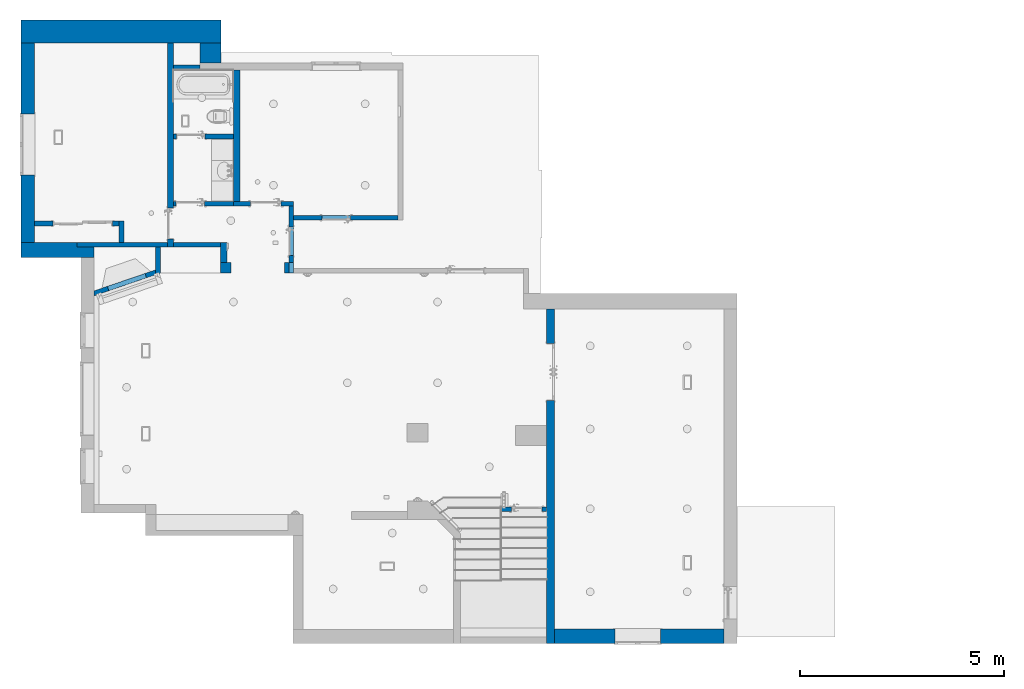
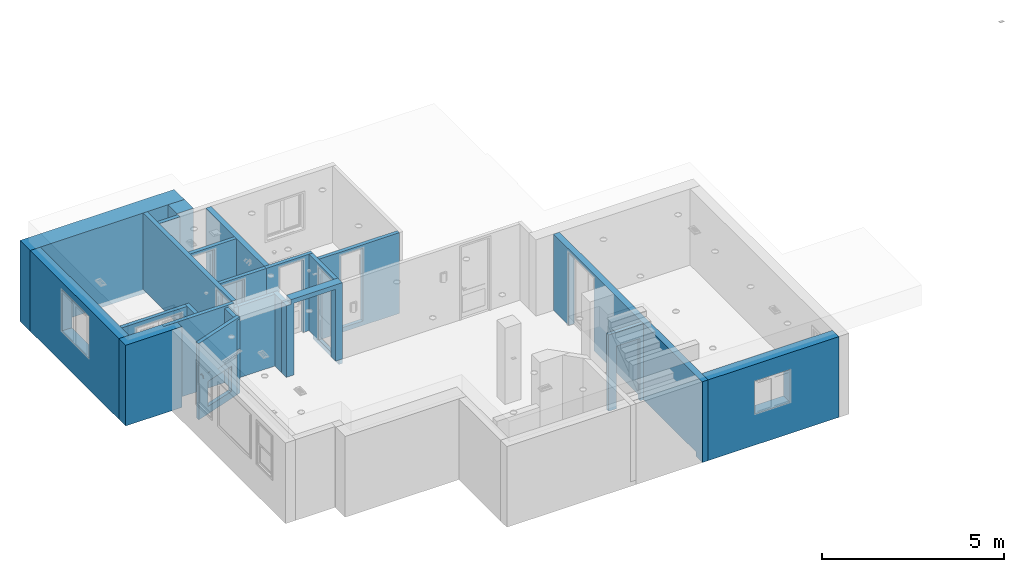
# One storey, part 2 of 24: 23 walls.
"""IFC2X3 building model written with IfcOpenShell, lengths in inches."""

from ifc_helpers import new_model, entity, si_unit, converted_unit, derived_unit, money_unit, direction, frame, origin_with_axes, place, context, subcontext, project, spatial, faceted_brep, material, type_object, element, save


model = new_model("IFC2X3")

# Units and contexts
model_context = context("Model", 3, precision=0.000393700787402, world=origin_with_axes(), true_north=direction((0.0, 1.0)))
body_context = subcontext(model_context, "Body", "Model", "MODEL_VIEW")
ifc_project = project(units=[converted_unit("LENGTHUNIT", "INCH", entity("IfcPositiveLengthMeasure", 0.0254), si_unit("LENGTHUNIT", "METRE"), dimensions=[1, 0, 0, 0, 0, 0, 0]), converted_unit("AREAUNIT", "SQUARE_FOOT", entity("IfcPositiveLengthMeasure", 0.09290304), si_unit("AREAUNIT", "SQUARE_METRE"), dimensions=[2, 0, 0, 0, 0, 0, 0]), si_unit("PLANEANGLEUNIT", "RADIAN"), si_unit("SOLIDANGLEUNIT", "STERADIAN"), money_unit("USD"), converted_unit("TIMEUNIT", "Year", entity("IfcTimeMeasure", 31556926.0), si_unit("TIMEUNIT", "SECOND"), dimensions=[0, 0, 1, 0, 0, 0, 0]), si_unit("MASSUNIT", "GRAM", prefix="KILO"), si_unit("THERMODYNAMICTEMPERATUREUNIT", "DEGREE_CELSIUS"), si_unit("LUMINOUSINTENSITYUNIT", "LUMEN"), si_unit("ENERGYUNIT", "JOULE", prefix="MEGA"), derived_unit("THERMALCONDUCTANCEUNIT", [(si_unit("POWERUNIT", "WATT"), 1), (si_unit("LENGTHUNIT", "METRE"), -1), (si_unit("THERMODYNAMICTEMPERATUREUNIT", "KELVIN"), -1)]), derived_unit("SPECIFICHEATCAPACITYUNIT", [(si_unit("ENERGYUNIT", "JOULE"), 1), (si_unit("MASSUNIT", "GRAM", prefix="KILO"), -1), (si_unit("THERMODYNAMICTEMPERATUREUNIT", "KELVIN"), -1)]), derived_unit("MASSDENSITYUNIT", [(si_unit("MASSUNIT", "GRAM", prefix="KILO"), 1), (si_unit("VOLUMEUNIT", "CUBIC_METRE"), -1)])], contexts=[model_context])

# Site, building, storey
site_placement = place(None, origin_with_axes())
site = spatial("IfcSite", under=ifc_project, at=site_placement, Name="Site", CompositionType="ELEMENT")
building_placement = place(site_placement, origin_with_axes())
building = spatial("IfcBuilding", under=site, at=building_placement, Name="Building", CompositionType="ELEMENT")
storey_placement = place(building_placement, origin_with_axes())
storey = spatial("IfcBuildingStorey", under=building, at=storey_placement, Name="First Floor", CompositionType="ELEMENT", Elevation=0.0)

# Walls
ifc_material = material(Name="Generic - Structural")
wall_type_1 = type_object("IfcWallType", Name="Generic - Structural 520", PredefinedType="NOTDEFINED")
wall_1_placement = place(storey_placement, frame((392.777876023, 566.450656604, -5.90551181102), z_axis=(0.0, 0.0, 1.0), x_axis=(0.0, 1.0, 0.0)))
element("IfcWall", 1, at=wall_1_placement, inside=storey, type_object=wall_type_1, material=ifc_material, Name="SW - 053", context=body_context, shape_type="Brep", body=[
    faceted_brep([(25.9919652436, 0.0, 0.0), (25.9919652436, -20.4724409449, 0.0), (6.5, -20.4724409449, 0.0), (6.5, 0.0, 0.0), (25.9919652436, 0.0, 106.88976378), (25.9919652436, -20.4724409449, 106.88976378), (6.5, -20.4724409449, 106.88976378), (6.5, 0.0, 106.88976378)], [[[0, 1, 2, 3]], [[1, 0, 4, 5]], [[1, 5, 6, 2]], [[7, 3, 2, 6]], [[4, 0, 3, 7]], [[5, 4, 7, 6]]]),
])
wall_type_2 = type_object("IfcWallType", Name="Generic - Structural 325", PredefinedType="NOTDEFINED")
wall_2_placement = place(storey_placement, frame((232.930392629, 592.442621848, -5.90551181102), z_axis=(0.0, 0.0, 1.0), x_axis=(0.0, -1.0, 0.0)))
element("IfcWall", 2, at=wall_2_placement, inside=storey, type_object=wall_type_2, material=ifc_material, Name="SW - 048", context=body_context, shape_type="Brep", body=[
    faceted_brep([(192.504021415, -12.7952755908, 106.88976378), (0.0, -12.7952755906, 106.88976378), (0.0, -12.7952755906, 0.0), (192.504021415, -12.7952755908, 0.0), (127.556903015, -12.7952755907, 41.7322834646), (68.5017849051, -12.7952755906, 41.7322834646), (68.5017849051, -12.7952755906, 96.8503937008), (127.556903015, -12.7952755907, 96.8503937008), (192.504021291, -2.45717706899e-10, 106.88976378), (0.0, 0.0, 106.88976378), (0.0, 0.0, 0.0), (192.504021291, -2.45717706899e-10, 0.0), (127.556903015, -1.62844366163e-10, 41.7322834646), (68.5017849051, 0.0, 41.7322834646), (68.5017849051, 0.0, 96.8503937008), (127.556903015, -1.62844366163e-10, 96.8503937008)], [[[0, 1, 2, 3], [4, 5, 6, 7]], [[8, 9, 1, 0]], [[10, 2, 1, 9]], [[3, 2, 10, 11]], [[11, 8, 0, 3]], [[12, 13, 5, 4]], [[13, 14, 6, 5]], [[14, 15, 7, 6]], [[15, 12, 4, 7]], [[11, 10, 9, 8], [12, 15, 14, 13]]]),
])
wall_type_3 = type_object("IfcWallType", Name="Generic - Structural 370", PredefinedType="NOTDEFINED")
wall_3_placement = place(storey_placement, frame((232.930392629, 399.938600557, -5.90551181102), z_axis=(0.0, 0.0, 1.0), x_axis=(1.0, 9.67114308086e-09, 0.0)))
element("IfcWall", 3, at=wall_3_placement, inside=storey, type_object=wall_type_3, material=ifc_material, Name="SW - 051", context=body_context, shape_type="Brep", body=[
    faceted_brep([(57.5032196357, -14.56692969, 0.0), (57.5033645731, -0.0314282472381, 0.0), (57.5033645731, -0.0314282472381, 5.90551181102), (57.5033195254, -4.52755905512, 5.90551181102), (57.5033195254, -4.52755905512, 106.88976378), (57.5032196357, -14.56692969, 106.88976378), (-2.45962480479e-10, 0.0, 0.0), (-5.49936299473e-10, -0.0314282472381, 0.0), (-12.7952757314, -14.5669290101, 0.0), (-12.7952755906, 1.2374493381e-07, 0.0), (-5.49936299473e-10, -0.0314282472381, 5.90551181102), (40.9678864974, -0.0314282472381, 5.90551181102), (40.9678864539, -4.5275588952, 5.90551181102), (40.9678864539, -4.5275588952, 106.88976378), (40.9678864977, 1.59916944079e-07, 106.88976378), (-12.7952755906, 1.2374493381e-07, 106.88976378), (-12.7952757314, -14.5669290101, 106.88976378), (-2.45962480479e-10, 5.56123266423e-07, 5.90551181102), (40.9678864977, 1.59916944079e-07, 5.90551181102)], [[[0, 1, 2, 3, 4, 5]], [[6, 7, 1, 0, 8, 9]], [[10, 11, 2, 1, 7]], [[3, 2, 11, 12]], [[3, 12, 13, 4]], [[5, 4, 13, 14, 15, 16]], [[16, 8, 0, 5]], [[7, 6, 17, 10]], [[9, 8, 16, 15]], [[18, 17, 6, 9, 15, 14]], [[10, 17, 18, 11]], [[12, 11, 18, 14, 13]]]),
])
wall_type_4 = type_object("IfcWallType", Name="Generic - Structural 150", PredefinedType="NOTDEFINED")
wall_4_placement = place(storey_placement, frame((418.621439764, 399.938822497, 0.0), z_axis=(0.0, 0.0, 1.0), x_axis=(0.0, -1.0, 0.0)))
element("IfcWall", 4, at=wall_4_placement, inside=storey, type_object=wall_type_4, material=ifc_material, Name="SW - 067", context=body_context, shape_type="Brep", body=[
    faceted_brep([(0.0, -5.90551181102, 95.0787401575), (0.00327157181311, -5.90551181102, 95.0787401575), (0.0, 0.0, 95.0787401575), (19.4922801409, -5.90551181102, 95.0), (0.00327157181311, -5.90551181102, 95.0), (0.0, -5.90551181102, 0.0), (19.4922801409, -5.90551181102, 0.0), (0.0, 0.0, 95.0), (0.0, 0.0, 0.0), (19.4922801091, 0.0, 95.0), (19.4922801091, 0.0, 0.0)], [[[0, 1, 2]], [[3, 4, 1, 0, 5, 6]], [[4, 7, 2, 1]], [[0, 2, 7, 8, 5]], [[3, 9, 7, 4]], [[8, 10, 6, 5]], [[10, 9, 3, 6]], [[8, 7, 9, 10]]]),
])
wall_type_5 = type_object("IfcWallType", Name="Generic - Structural 115", PredefinedType="NOTDEFINED")
wall_5_placement = place(storey_placement, frame((354.45620515, 370.240686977, 0.0), z_axis=(0.0, 0.0, 1.0), x_axis=(-0.946251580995, -0.323431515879, 0.0)))
element("IfcWall", 5, at=wall_5_placement, inside=storey, type_object=wall_type_5, material=ifc_material, Name="SW - 018", context=body_context, shape_type="Brep", body=[
    faceted_brep([(5.91242270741, 0.0, 50.9291493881), (60.0979262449, 0.0, 50.9291493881), (60.0979262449, 0.0, 50.9999970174), (60.6776106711, 0.0, 50.9999970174), (60.759708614, 0.0, 52.3498885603), (61.0106490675, 0.0, 53.6787900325), (61.3986634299, 0.0, 54.8502696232), (61.9590621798, 0.0, 55.9497610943), (62.5878738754, 0.0, 56.7841280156), (63.378462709, 0.0, 57.4671754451), (64.1992105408, 0.0, 57.865517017), (65.0527597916, 0.0, 58.0000205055), (65.0527597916, 0.0, 59.0000238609), (62.981621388, 0.0, 59.0000238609), (60.0979262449, 0.0, 54.3862534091), (60.0979262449, 0.0, 54.3453942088), (5.91242270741, 0.0, 54.4957041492), (5.91242270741, 0.0, 54.5352439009), (4.7847305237, 0.0, 56.3394931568), (4.7847305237, 0.0, 98.4251968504), (-2.45635043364e-07, 0.0, 98.4251968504), (-2.24215676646e-07, 0.0, 101.0), (67.6595547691, 0.0, 101.0), (67.6595547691, 0.0, 100.984251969), (67.6595547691, 0.0, 0.0), (4.7847305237, 0.0, 0.0), (4.7847305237, 0.0, 54.6089633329), (5.09282053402, 0.0, 53.6787900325), (5.34376137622, 0.0, 52.3498885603), (5.42585944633, 0.0, 50.9999970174), (5.91242270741, 0.0, 50.9999970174), (52.3484072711, 0.0, 42.9882254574), (13.9729963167, 0.0, 42.9882254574), (13.8933305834, 0.0, 9.42335344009), (52.3484072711, 0.0, 10.0), (60.052915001, -0.0446976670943, 50.9291493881), (6.05190130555, -0.136038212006, 50.9291493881), (60.052915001, -0.0446976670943, 50.9999970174), (60.0592682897, -0.916775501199, 50.9999970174), (60.6842564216, -0.912222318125, 50.9999970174), (60.7663500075, -0.911624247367, 52.3498885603), (61.0172771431, -0.909796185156, 53.6787900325), (61.4052709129, -0.906969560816, 54.8502696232), (61.9656399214, -0.902887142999, 55.9497610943), (62.5944182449, -0.898306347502, 56.7841280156), (63.3849651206, -0.892547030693, 57.4671754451), (64.2056693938, -0.886568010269, 57.865517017), (65.0591733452, -0.880350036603, 58.0000205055), (65.0591733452, -0.880350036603, 59.0000238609), (62.9881448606, -0.895437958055, 59.0000238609), (60.052915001, -0.0446976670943, 54.3137166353), (60.0592682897, -0.916775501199, 54.3137166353), (60.052915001, -0.0446976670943, 54.2722150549), (6.05190130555, -0.136038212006, 54.2722150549), (6.05190130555, -0.136038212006, 54.3137166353), (6.06070124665, -1.31016754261, 54.3137166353), (4.33248419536, -1.3231202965, 57.0789299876), (4.33248419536, -1.3231202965, 55.6002119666), (4.70652051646, -0.228816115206, 54.8502696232), (3.2371977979, -4.52755905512, 0.0), (3.2371977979, -4.52755905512, 98.4251968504), (0.0, -4.52755905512, 98.4251968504), (0.0, -4.52755905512, 101.0), (67.6595547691, -4.52755905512, 101.0), (67.6595547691, -4.52755905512, 100.984251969), (66.1119717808, -4.52755905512, 0.0), (66.1119717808, -4.52755905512, 100.984251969), (4.71470070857, -1.32025563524, 54.8502696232), (5.10269387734, -1.31734767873, 53.6787900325), (5.35362062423, -1.31546701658, 52.3498885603), (5.43571408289, -1.31485173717, 50.9999970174), (6.06070124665, -1.31016754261, 50.9999970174), (6.05190130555, -0.136038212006, 50.9999970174), (52.3484072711, -4.52755905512, 42.9882254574), (13.9729963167, -4.52755905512, 42.9882254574), (13.8933305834, -4.52755905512, 9.42335344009), (52.3484072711, -4.52755905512, 10.0)], [[[0, 1, 2, 3, 4, 5, 6, 7, 8, 9, 10, 11, 12, 13, 14, 15, 16, 17, 18, 19, 20, 21, 22, 23, 24, 25, 26, 27, 28, 29, 30], [31, 32, 33, 34]], [[35, 1, 0, 36]], [[35, 37, 2, 1]], [[3, 2, 37, 38, 39]], [[40, 4, 3, 39]], [[41, 5, 4, 40]], [[42, 6, 5, 41]], [[43, 7, 6, 42]], [[44, 8, 7, 43]], [[45, 9, 8, 44]], [[46, 10, 9, 45]], [[47, 11, 10, 46]], [[48, 12, 11, 47]], [[49, 13, 12, 48]], [[50, 14, 13, 49, 51]], [[50, 52, 15, 14]], [[52, 53, 16, 15]], [[17, 16, 53, 54]], [[55, 56, 18, 17, 54]], [[57, 58, 26, 25, 59, 60, 19, 18, 56]], [[20, 19, 60, 61]], [[20, 61, 62, 21]], [[62, 63, 22, 21]], [[64, 23, 22, 63]], [[65, 24, 23, 66]], [[65, 59, 25, 24]], [[27, 26, 58, 67, 68]], [[69, 28, 27, 68]], [[70, 29, 28, 69]], [[71, 72, 30, 29, 70]], [[36, 0, 30, 72]], [[32, 31, 73, 74]], [[33, 32, 74, 75]], [[34, 33, 75, 76]], [[31, 34, 76, 73]], [[36, 72, 53, 52, 37, 35]], [[38, 37, 52, 50, 51]], [[48, 47, 46, 45, 44, 43, 42, 41, 40, 39, 38, 51, 49]], [[54, 53, 72, 71, 55]], [[67, 57, 56, 55, 71, 70, 69, 68]], [[67, 58, 57]], [[66, 64, 63, 62, 61, 60, 59, 65], [73, 76, 75, 74]], [[64, 66, 23]]]),
])
wall_6_placement = place(storey_placement, frame((319.37705358, 399.938600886, 0.0), z_axis=(0.0, 0.0, 1.0), x_axis=(0.0, 1.0, 0.0)))
element("IfcWall", 6, at=wall_6_placement, inside=storey, type_object=wall_type_5, material=ifc_material, Name="W-16", context=body_context, shape_type="Brep", body=[
    faceted_brep([(20.458194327, 4.52755905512, 0.0), (20.458194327, 0.0, 0.0), (3.56040656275e-10, 0.0, 0.0), (3.57912824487e-08, 4.52755905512, 0.0), (20.458194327, 4.52755905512, 101.0), (20.458194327, 0.0, 101.0), (3.56040656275e-10, 0.0, 101.0), (3.57912824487e-08, 4.52755905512, 101.0)], [[[0, 1, 2, 3]], [[1, 0, 4, 5]], [[1, 5, 6, 2]], [[7, 3, 2, 6]], [[4, 0, 3, 7]], [[5, 4, 7, 6]]]),
])
wall_7_placement = place(storey_placement, frame((319.37705358, 420.396795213, 0.0), z_axis=(0.0, 0.0, 1.0), x_axis=(-1.0, 0.0, 0.0)))
element("IfcWall", 7, at=wall_7_placement, inside=storey, type_object=wall_type_5, material=ifc_material, Name="W-17", context=body_context, shape_type="Brep", body=[
    faceted_brep([(68.3200873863, 0.0, 94.4881889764), (68.3200873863, 0.0, 0.0), (86.4466609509, 0.0, 0.0), (86.4466609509, 0.0, 100.984251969), (86.4466609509, 0.0, 101.0), (4.52755905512, 0.0, 101.0), (4.52755905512, 0.0, 0.0), (11.2334732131, 0.0, 0.0), (11.2334732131, 0.0, 94.4881889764), (68.3200873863, 4.52755905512, 94.4881889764), (68.3200873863, 4.52755905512, 0.0), (86.4466609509, 4.52755905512, 0.0), (86.4466609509, 4.52755905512, 100.984251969), (86.4466609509, 4.52755905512, 101.0), (4.52755905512, 4.52755905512, 101.0), (4.52755905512, 4.52755905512, 0.0), (11.2334732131, 4.52755905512, 0.0), (11.2334732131, 4.52755905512, 94.4881889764)], [[[0, 1, 2, 3, 4, 5, 6, 7, 8]], [[1, 0, 9, 10]], [[1, 10, 11, 2]], [[12, 3, 2, 11]], [[3, 12, 13, 4]], [[5, 4, 13, 14]], [[6, 5, 14, 15]], [[16, 7, 6, 15]], [[8, 7, 16, 17]], [[0, 8, 17, 9]], [[17, 16, 15, 14, 13, 12, 11, 10, 9]]]),
])
wall_8_placement = place(storey_placement, frame((354.456205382, 399.938600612, 0.0), z_axis=(0.0, 0.0, 1.0), x_axis=(-7.82656043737e-09, -1.0, 0.0)))
element("IfcWall", 8, at=wall_8_placement, inside=storey, type_object=wall_type_5, material=ifc_material, Name="SW - 017", context=body_context, shape_type="Brep", body=[
    faceted_brep([(31.2454463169, -4.52755881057, 98.4251968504), (31.2454463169, -4.52755881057, 56.3394931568), (30.7076167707, -2.95405091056, 59.0000238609), (30.0377442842, -0.994229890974, 59.0000238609), (30.0377442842, -0.994229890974, 58.0000205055), (30.3138094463, -1.80190346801, 57.865517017), (30.5792655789, -2.57853860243, 57.4671754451), (30.8349673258, -3.32663569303, 56.7841280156), (31.0383451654, -3.92165067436, 55.9497610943), (31.2195960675, -4.45192969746, 54.8502696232), (31.2454463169, -4.52755881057, 54.6089633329), (31.2454463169, -4.52755881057, 0.0), (29.6979135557, 2.32432515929e-07, 0.0), (29.6979135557, 2.32432515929e-07, 98.4251968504), (29.847170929, -4.52755882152, 55.6002119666), (29.847170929, -4.52755882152, 57.0789299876), (4.52755905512, -4.52755901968, 98.4251968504), (4.52755905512, -4.52755901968, 0.0), (31.0036331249, -4.52755881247, 54.8502696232), (29.4503261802, -3.39434762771, 59.0000238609), (28.765803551, -1.43965701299, 59.0000238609), (28.765803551, -1.43965701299, 58.0000205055), (29.0479062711, -2.24521626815, 57.865517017), (29.3191679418, -3.01981833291, 57.4671754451), (29.5804618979, -3.76595706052, 56.7841280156), (29.7882876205, -4.35941441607, 55.9497610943), (4.52755905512, 3.54352417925e-08, 0.0), (4.52755905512, 3.54352417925e-08, 98.4251968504)], [[[0, 1, 2, 3, 4, 5, 6, 7, 8, 9, 10, 11, 12, 13]], [[14, 15, 1, 0, 16, 17, 11, 10, 18]], [[19, 2, 1, 15]], [[20, 3, 2, 19]], [[21, 4, 3, 20]], [[22, 5, 4, 21]], [[23, 6, 5, 22]], [[24, 7, 6, 23]], [[25, 8, 7, 24]], [[18, 9, 8, 25, 14]], [[18, 10, 9]], [[17, 26, 12, 11]], [[26, 27, 13, 12]], [[27, 16, 0, 13]], [[19, 15, 14, 25, 24, 23, 22, 21, 20]], [[17, 16, 27, 26]]]),
])
wall_9_placement = place(storey_placement, frame((361.489643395, 399.938822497, 0.0), z_axis=(0.0, 0.0, 1.0), x_axis=(1.0, 0.0, 0.0)))
element("IfcWall", 9, at=wall_9_placement, inside=storey, type_object=wall_type_5, material=ifc_material, Name="SW - 051", context=body_context, shape_type="Brep", body=[
    faceted_brep([(5.50000000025, 0.0, 95.0787401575), (5.50000000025, -0.0286033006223, 95.0787401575), (51.226284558, -0.00327157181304, 95.0787401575), (51.226284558, 0.0, 95.0787401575), (5.50000000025, -4.52755905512, 95.0), (5.50000000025, -0.0286033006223, 95.0), (5.50000000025, 0.0, 0.0), (5.50000000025, -4.52755905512, 0.0), (51.226284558, -0.00327157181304, 95.0), (51.226284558, -4.52755905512, 95.0), (51.226284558, -4.52755905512, 0.0), (51.226284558, 0.0, 0.0)], [[[0, 1, 2, 3]], [[4, 5, 1, 0, 6, 7]], [[5, 8, 2, 1]], [[2, 8, 9, 10, 11, 3]], [[0, 3, 11, 6]], [[4, 9, 8, 5]], [[6, 11, 10, 7]], [[10, 9, 4, 7]]]),
])
wall_10_placement = place(storey_placement, frame((290.433757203, 399.938601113, 0.0), z_axis=(0.0, 0.0, 1.0), x_axis=(1.0, -7.82656154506e-09, 0.0)))
element("IfcWall", 10, at=wall_10_placement, inside=storey, type_object=wall_type_5, material=ifc_material, Name="SW - 051", context=body_context, shape_type="Brep", body=[
    faceted_brep([(-3.54352068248e-08, 0.0, 101.0), (0.0, -4.52755905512, 101.0), (71.0558862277, -4.52755849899, 101.0), (71.0558861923, 5.56123266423e-07, 101.0), (-3.54352068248e-08, 0.0, 100.984251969), (0.0, -4.52755905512, 100.984251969), (-16.5354780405, -4.52755918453, 0.0), (71.0558862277, -4.52733711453, 0.0), (71.0558862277, -4.52754552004, 95.0787401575), (-16.5354780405, -4.52755918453, 100.984251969), (71.0558861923, 5.56123266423e-07, 0.0), (-16.535478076, -1.29415918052e-07, 0.0), (-16.535478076, -1.29415918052e-07, 100.984251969)], [[[0, 1, 2, 3]], [[0, 4, 5, 1]], [[6, 7, 8, 2, 1, 5, 9]], [[7, 10, 3, 2, 8]], [[4, 0, 3, 10, 11, 12]], [[12, 9, 5, 4]], [[6, 11, 10, 7]], [[12, 11, 6, 9]]]),
])
wall_11_placement = place(storey_placement, frame((424.990115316, 439.494151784, 0.0), z_axis=(0.0, 0.0, 1.0), x_axis=(1.0, 5.97077375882e-09, 0.0)))
element("IfcWall", 11, at=wall_11_placement, inside=storey, type_object=wall_type_5, material=ifc_material, Name="SW - 057", context=body_context, shape_type="Brep", body=[
    faceted_brep([(16.6100058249, -9.91746317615e-08, 96.4566929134), (16.6100058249, -9.91746317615e-08, 0.0), (0.0, 0.0, 0.0), (0.0, 0.0, 101.0), (57.9488753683, -3.45999624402e-07, 101.0), (57.9488753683, -3.45999624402e-07, 0.0), (46.13756488, -2.75476999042e-07, 0.0), (46.13756488, -2.75476999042e-07, 96.4566929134), (16.6100057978, -4.52755915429, 96.4566929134), (16.6100057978, -4.52755915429, 0.0), (-2.70330040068e-08, -4.52755905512, 0.0), (-2.70330040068e-08, -4.52755905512, 101.0), (57.9488753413, -4.52755940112, 101.0), (57.9488753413, -4.52755940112, 0.0), (46.1375648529, -4.5275593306, 0.0), (46.1375648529, -4.5275593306, 96.4566929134)], [[[0, 1, 2, 3, 4, 5, 6, 7]], [[1, 0, 8, 9]], [[1, 9, 10, 2]], [[2, 10, 11, 3]], [[12, 4, 3, 11]], [[5, 4, 12, 13]], [[14, 6, 5, 13]], [[7, 6, 14, 15]], [[0, 7, 15, 8]], [[15, 14, 13, 12, 11, 10, 9, 8]]]),
])
wall_12_placement = place(storey_placement, frame((361.489643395, 499.91873164, 0.0), z_axis=(0.0, 0.0, 1.0), x_axis=(1.0, 0.0, 0.0)))
element("IfcWall", 12, at=wall_12_placement, inside=storey, type_object=wall_type_5, material=ifc_material, Name="SW - 066", context=body_context, shape_type="Brep", body=[
    faceted_brep([(8.65120629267, 4.52755905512, 96.4566929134), (8.65120629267, 4.52755905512, 0.0), (5.50000000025, 4.52755905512, 0.0), (5.50000000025, 4.52755905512, 101.0), (63.5762041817, 4.52755905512, 101.0), (63.5762041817, 4.52755905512, 0.0), (36.2102614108, 4.52755905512, 0.0), (36.2102614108, 4.52755905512, 96.4566929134), (8.65120629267, 0.0, 96.4566929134), (8.65120629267, 0.0, 0.0), (5.50000000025, 0.0, 0.0), (5.50000000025, 0.0, 101.0), (63.5762041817, 0.0, 101.0), (63.5762041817, 0.0, 0.0), (36.2102614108, 0.0, 0.0), (36.2102614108, 0.0, 96.4566929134)], [[[0, 1, 2, 3, 4, 5, 6, 7]], [[1, 0, 8, 9]], [[1, 9, 10, 2]], [[11, 3, 2, 10]], [[4, 3, 11, 12]], [[12, 13, 5, 4]], [[14, 6, 5, 13]], [[7, 6, 14, 15]], [[0, 7, 15, 8]], [[15, 14, 13, 12, 11, 10, 9, 8]]]),
])
wall_13_placement = place(storey_placement, frame((361.489643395, 566.450626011, 0.0), z_axis=(0.0, 0.0, 1.0), x_axis=(1.0, 0.0, 0.0)))
element("IfcWall", 13, at=wall_13_placement, inside=storey, type_object=wall_type_5, material=ifc_material, Name="SW - 146", context=body_context, shape_type="Brep", body=[
    faceted_brep([(5.50000000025, 0.0, 101.0), (31.25, 0.0, 101.0), (31.25, 4.52755905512, 101.0), (5.50000000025, 4.52755905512, 101.0), (5.50000000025, 0.0, 0.0), (31.25, 0.0, 0.0), (31.25, 4.52755905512, 0.0), (5.50000000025, 4.52755905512, 0.0)], [[[0, 1, 2, 3]], [[4, 5, 1, 0]], [[2, 1, 5, 6]], [[3, 2, 6, 7]], [[4, 0, 3, 7]], [[7, 6, 5, 4]]]),
])
wall_14_placement = place(storey_placement, frame((361.489643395, 439.494151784, 0.0), z_axis=(0.0, 0.0, 1.0), x_axis=(1.0, 0.0, 0.0)))
element("IfcWall", 14, at=wall_14_placement, inside=storey, type_object=wall_type_5, material=ifc_material, Name="SW - 057", context=body_context, shape_type="Brep", body=[
    faceted_brep([(8.25272035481, 0.0, 96.4566929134), (8.25272035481, 0.0, 0.0), (5.50000000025, 0.0, 0.0), (5.50000000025, 0.0, 101.0), (63.5004719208, 0.0, 101.0), (63.5004719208, 0.0, 0.0), (35.8117754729, 0.0, 0.0), (35.8117754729, 0.0, 96.4566929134), (8.25272035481, -4.52755905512, 96.4566929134), (8.25272035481, -4.52755905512, 0.0), (5.50000000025, -4.52755905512, 0.0), (5.50000000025, -4.52755905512, 101.0), (63.5004719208, -4.52755905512, 101.0), (63.5004719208, -4.52755905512, 0.0), (35.8117754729, -4.52755905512, 0.0), (35.8117754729, -4.52755905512, 96.4566929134)], [[[0, 1, 2, 3, 4, 5, 6, 7]], [[1, 0, 8, 9]], [[1, 9, 10, 2]], [[2, 10, 11, 3]], [[12, 4, 3, 11]], [[5, 4, 12, 13]], [[14, 6, 5, 13]], [[7, 6, 14, 15]], [[0, 7, 15, 8]], [[15, 14, 13, 12, 11, 10, 9, 8]]]),
])
wall_15_placement = place(storey_placement, frame((478.411431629, 439.494183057, -5.90551181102), z_axis=(0.0, 0.0, 1.0), x_axis=(-6.83082146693e-06, -0.999999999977, 0.0)))
element("IfcWall", 15, at=wall_15_placement, inside=storey, type_object=wall_type_5, material=ifc_material, Name="SW - 058", context=body_context, shape_type="Brep", body=[
    faceted_brep([(52.3701979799, 0.0, 5.90551181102), (52.3701979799, 0.0546532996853, 5.90551181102), (59.0476398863, 0.0640636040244, 5.90551181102), (59.047640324, 0.0, 5.90551181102), (52.3701979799, 4.52755905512, 102.362204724), (52.3701979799, 4.52755905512, 5.90551181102), (52.3701979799, 0.0, 102.362204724), (24.8111428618, 0.0158152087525, 5.90551181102), (13.5888556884, 0.0, 5.90551181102), (13.5888556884, 0.0, 0.0), (69.0870102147, 0.0782117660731, 0.0), (69.0870102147, 0.0782117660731, 5.90551181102), (59.0476093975, 4.52749047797, 5.90551181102), (59.0476093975, 4.52749047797, 106.88976378), (59.047640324, 0.0, 106.88976378), (4.52759032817, 0.0, 106.88976378), (4.52759032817, 0.0, 5.90551181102), (24.8111428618, 0.0, 5.90551181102), (24.8111428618, 0.0, 102.362204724), (69.086979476, 4.52755905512, 5.90551181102), (69.086979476, 4.52755905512, 0.0), (13.5887455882, 4.52755905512, 0.0), (13.5887455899, 4.52749047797, 5.90551181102), (4.52755940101, 4.52758998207, 5.90551181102), (4.52755940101, 4.52758998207, 106.88976378), (24.8111428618, 4.52755905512, 102.362204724), (24.8111428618, 4.52755905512, 5.90551181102)], [[[0, 1, 2, 3]], [[4, 5, 1, 0, 6]], [[1, 7, 8, 9, 10, 11, 2]], [[2, 12, 13, 14, 3]], [[6, 0, 3, 14, 15, 16, 8, 17, 18]], [[13, 12, 19, 20, 21, 22, 23, 24], [5, 4, 25, 26]], [[5, 26, 7, 1]], [[25, 4, 6, 18]], [[7, 17, 8]], [[22, 21, 9, 8]], [[9, 21, 20, 10]], [[11, 10, 20, 19]], [[2, 11, 19, 12]], [[15, 14, 13, 24]], [[23, 16, 15, 24]], [[16, 23, 22, 8]], [[26, 25, 18, 17, 7]]]),
])
wall_16_placement = place(storey_placement, frame((478.411338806, 425.905327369, -5.90551181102), z_axis=(0.0, 0.0, 1.0), x_axis=(0.999999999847, 1.74869580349e-05, 0.0)))
element("IfcWall", 16, at=wall_16_placement, inside=storey, type_object=wall_type_5, material=ifc_material, Name="SW - 059", context=body_context, shape_type="Brep", body=[
    faceted_brep([(105.503735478, -4.52755905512, 0.0), (105.503735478, -4.52755905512, 106.88976378), (4.52744895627, -4.52755905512, 106.88976378), (4.52744895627, -4.52755905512, 0.0), (31.8706097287, -4.52755905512, 5.90551181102), (31.8706097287, -4.52755905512, 102.362204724), (59.4217525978, -4.52755905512, 102.362204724), (59.4217525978, -4.52755905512, 5.90551181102), (105.503814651, 0.0, 0.0), (105.503814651, 0.0, 106.88976378), (4.52755905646, 0.0, 106.88976378), (4.52755905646, 0.0, 0.0), (31.8706097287, 0.0, 5.90551181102), (31.8706097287, 0.0, 102.362204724), (59.4217525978, 0.0, 102.362204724), (59.4217525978, 0.0, 5.90551181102)], [[[0, 1, 2, 3], [4, 5, 6, 7]], [[0, 8, 9, 1]], [[1, 9, 10, 2]], [[10, 11, 3, 2]], [[8, 0, 3, 11]], [[12, 13, 5, 4]], [[13, 14, 6, 5]], [[14, 15, 7, 6]], [[15, 12, 4, 7]], [[9, 8, 11, 10], [12, 15, 14, 13]]]),
])
wall_type_6 = type_object("IfcWallType", Name="Generic - Structural 140", PredefinedType="NOTDEFINED")
wall_17_placement = place(storey_placement, frame((361.489643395, 399.938600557, 0.0), z_axis=(0.0, 0.0, 1.0), x_axis=(0.0, 1.0, 0.0)))
element("IfcWall", 17, at=wall_17_placement, inside=storey, type_object=wall_type_6, material=ifc_material, Name="SW - 052", context=body_context, shape_type="Brep", body=[
    faceted_brep([(3.52429226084, -5.5, 0.0), (3.52429226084, -5.5, 96.4566929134), (33.051851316, -5.5, 96.4566929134), (33.051851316, -5.5, 0.0), (192.504021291, -5.5, 0.0), (192.504021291, -5.5, 100.984251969), (192.504021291, -5.5, 101.0), (-0.0283813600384, -5.5, 101.0), (-0.0283813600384, -5.5, 95.0), (-4.52754534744, -5.5, 95.0), (-4.52733711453, -5.5, 0.0), (3.52429226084, 0.0, 0.0), (3.52429226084, -3.12755665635e-07, 96.4566929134), (33.051851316, -3.12755665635e-07, 96.4566929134), (33.051851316, 0.0, 0.0), (192.504021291, 0.0, 0.0), (192.504021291, 0.0, 100.984251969), (192.504021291, 0.0, 101.0), (-0.0314282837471, -3.12755665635e-07, 101.0), (-0.0314282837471, -3.12755665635e-07, 95.0), (-4.52754534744, -3.12755665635e-07, 95.0), (-4.52733711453, 0.0, 0.0)], [[[0, 1, 2, 3, 4, 5, 6, 7, 8, 9, 10]], [[1, 0, 11, 12]], [[2, 1, 12, 13]], [[3, 2, 13, 14]], [[3, 14, 15, 4]], [[4, 15, 16, 17, 6, 5]], [[18, 7, 6, 17]], [[8, 7, 18, 19]], [[9, 8, 19, 20]], [[9, 20, 21, 10]], [[11, 0, 10, 21]], [[12, 11, 21, 20, 19, 18, 17, 16, 15, 14, 13]]]),
])
wall_type_7 = type_object("IfcWallType", Name="Generic - Structural 560", PredefinedType="NOTDEFINED")
wall_18_placement = place(storey_placement, frame((392.777876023, 592.442621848, -5.90551181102), z_axis=(0.0, 0.0, 1.0), x_axis=(-1.0, 0.0, 0.0)))
element("IfcWall", 18, at=wall_18_placement, inside=storey, type_object=wall_type_7, material=ifc_material, Name="SW - 053", context=body_context, shape_type="Brep", body=[
    faceted_brep([(172.642758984, 0.0, 0.0), (172.642758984, -22.0472440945, 0.0), (-20.4724409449, -22.0472440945, 0.0), (-20.4724409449, 0.0, 0.0), (172.642758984, 0.0, 106.88976378), (172.642758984, -22.0472440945, 106.88976378), (-20.4724409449, -22.0472440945, 106.88976378), (-20.4724409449, 0.0, 106.88976378)], [[[0, 1, 2, 3]], [[1, 0, 4, 5]], [[1, 5, 6, 2]], [[7, 3, 2, 6]], [[4, 0, 3, 7]], [[5, 4, 7, 6]]]),
])
wall_type_8 = type_object("IfcWallType", Name="Generic Wall 6.5\" 165", PredefinedType="NOTDEFINED")
wall_19_placement = place(storey_placement, frame((431.565847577, 566.450656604, 0.0), z_axis=(0.0, 0.0, 1.0), x_axis=(0.0, -1.0, 0.0)))
element("IfcWall", 19, at=wall_19_placement, inside=storey, type_object=wall_type_8, material=ifc_material, Name="SW - 056", context=body_context, shape_type="Brep", body=[
    faceted_brep([(126.956504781, 0.0, 0.0), (0.0, 0.0, 0.0), (0.0, 0.0, 100.984251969), (0.0, 0.0, 101.0), (126.956504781, 0.0, 101.0), (126.95650482, -6.5, 0.0), (0.0, -6.5, 0.0), (0.0, -6.5, 100.984251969), (0.0, -6.5, 101.0), (126.95650482, -6.5, 101.0)], [[[0, 1, 2, 3, 4]], [[5, 6, 1, 0]], [[3, 2, 1, 6, 7, 8]], [[9, 4, 3, 8]], [[5, 0, 4, 9]], [[8, 7, 6, 5, 9]]]),
])
wall_type_9 = type_object("IfcWallType", Name="Generic Wall 4.5\" 114", PredefinedType="NOTDEFINED")
wall_20_placement = place(storey_placement, frame((727.056174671, 140.407626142, 0.0), z_axis=(0.0, 0.0, 1.0), x_axis=(-0.999999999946, -1.04147395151e-05, 0.0)))
element("IfcWall", 20, at=wall_20_placement, inside=storey, type_object=wall_type_9, material=ifc_material, Name="SW - 039", context=body_context, shape_type="Brep", body=[
    faceted_brep([(33.8567320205, -4.5, 82.6771653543), (33.8567320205, -4.5, 0.0), (43.5759831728, -4.5, 0.0), (43.5759831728, -4.5, 101.0), (0.0, -4.5, 101.0), (-4.68663278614e-05, -4.49999999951, 100.984251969), (-4.68663278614e-05, -4.5, 0.0), (4.32917296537, -4.5, 0.0), (4.32917296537, -4.5, 82.6771653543), (33.8567320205, 0.0, 82.6771653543), (33.8567320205, 0.0, 0.0), (43.5759831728, 0.0, 0.0), (43.5759831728, 0.0, 101.0), (0.0, 0.0, 101.0), (0.0, 0.0, 100.984251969), (0.0, 0.0, 0.0), (4.32917296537, 0.0, 0.0), (4.32917296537, 0.0, 82.6771653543)], [[[0, 1, 2, 3, 4, 5, 6, 7, 8]], [[1, 0, 9, 10]], [[1, 10, 11, 2]], [[11, 12, 3, 2]], [[4, 3, 12, 13]], [[6, 5, 4, 13, 14, 15]], [[16, 7, 6, 15]], [[8, 7, 16, 17]], [[0, 8, 17, 9]], [[17, 16, 15, 14, 13, 12, 11, 10, 9]]]),
])
wall_type_10 = type_object("IfcWallType", Name="Generic - Structural 190", PredefinedType="NOTDEFINED")
wall_21_placement = place(storey_placement, frame((727.056174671, 19.407173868, -5.90551181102), z_axis=(0.0, 0.0, 1.0), x_axis=(0.0, 1.0, 0.0)))
element("IfcWall", 21, at=wall_21_placement, inside=storey, type_object=wall_type_10, material=ifc_material, Name="SW - 044", context=body_context, shape_type="Brep", body=[
    faceted_brep([(227.962863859, -7.48031496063, 5.90551181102), (227.962863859, -7.48031496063, 102.362204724), (283.080974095, -7.48031496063, 102.362204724), (283.080974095, -7.48031496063, 5.90551181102), (316.147262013, -7.48031496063, 5.90551181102), (316.147262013, -7.48031496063, 106.88976378), (-6.49982466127, -7.48031496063, 106.88976378), (-6.49982466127, -7.48031496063, 0.0), (7.49895664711, -7.48031496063, 0.0), (7.49895664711, -7.48031496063, 5.90551181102), (227.962863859, 0.0, 5.90551181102), (227.962863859, 0.0, 102.362204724), (283.080974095, 0.0, 102.362204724), (283.080974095, 0.0, 5.90551181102), (316.147262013, 0.0, 5.90551181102), (316.147262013, 0.0, 106.88976378), (-6.49980427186, 0.0, 106.88976378), (-6.49980427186, 0.0, 0.0), (7.49998919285, 0.0, 0.0), (7.49998919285, 0.0, 5.90551181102)], [[[0, 1, 2, 3, 4, 5, 6, 7, 8, 9]], [[1, 0, 10, 11]], [[2, 1, 11, 12]], [[3, 2, 12, 13]], [[3, 13, 14, 4]], [[4, 14, 15, 5]], [[5, 15, 16, 6]], [[16, 17, 7, 6]], [[18, 8, 7, 17]], [[9, 8, 18, 19]], [[10, 0, 9, 19]], [[11, 10, 19, 18, 17, 16, 15, 14, 13, 12]]]),
])
wall_type_11 = type_object("IfcWallType", Name="Generic - Structural 255", PredefinedType="NOTDEFINED")
wall_22_placement = place(storey_placement, frame((482.938518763, 370.407172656, 0.0), z_axis=(0.0, 0.0, 1.0), x_axis=(-1.0, -5.37959170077e-09, 0.0)))
element("IfcWall", 22, at=wall_22_placement, inside=storey, type_object=wall_type_11, material=ifc_material, Name="SW - 016", context=body_context, shape_type="Brep", body=[
    faceted_brep([(60.4610482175, -10.039370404, 95.0787401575), (60.4610482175, -10.039370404, 0.0), (70.2225907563, -10.0393704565, 0.0), (70.2225907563, -10.0393704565, 95.0), (64.3170789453, -10.0393704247, 95.0), (64.3170788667, -10.0393704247, 95.0787401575), (64.3170789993, -10.0393704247, 101.0), (-5.40077519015e-08, -10.0393700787, 101.0), (-5.40077519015e-08, -10.0393700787, 0.0), (8.4753605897, -10.0393701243, 0.0), (8.4753605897, -10.0393701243, 95.0787401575), (60.4610482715, -3.2525576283e-07, 95.0787401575), (60.4610482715, -3.2525576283e-07, 0.0), (70.2225908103, -3.77768857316e-07, 0.0), (70.2225908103, -4.8422788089e-08, 95.0), (64.3170789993, 0.0, 95.0), (64.3170790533, -3.45999624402e-07, 101.0), (0.0, 0.0, 101.0), (0.0, 0.0, 0.0), (8.4753606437, -4.55939747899e-08, 0.0), (8.4753606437, -4.55939747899e-08, 95.0787401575)], [[[0, 1, 2, 3, 4, 5, 6, 7, 8, 9, 10]], [[1, 0, 11, 12]], [[1, 12, 13, 2]], [[14, 3, 2, 13]], [[4, 3, 14, 15]], [[4, 15, 16, 6, 5]], [[7, 6, 16, 17]], [[7, 17, 18, 8]], [[19, 9, 8, 18]], [[10, 9, 19, 20]], [[0, 10, 20, 11]], [[20, 19, 18, 17, 16, 15, 14, 13, 12, 11]]]),
])
wall_type_12 = type_object("IfcWallType", Name="Generic - Structural 355", PredefinedType="NOTDEFINED")
wall_23_placement = place(storey_placement, frame((727.056174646, 26.8837352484, -5.90551181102), z_axis=(0.0, 0.0, 1.0), x_axis=(0.999999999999, -1.08138594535e-06, 0.0)))
element("IfcWall", 23, at=wall_23_placement, inside=storey, type_object=wall_type_12, material=ifc_material, Name="SW - 063", context=body_context, shape_type="Brep", body=[
    faceted_brep([(171.063788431, -13.9763779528, 106.88976378), (7.48033009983, -13.9763779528, 106.88976378), (7.48033009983, -13.9763779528, 0.0), (171.063788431, -13.9763779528, 0.0), (65.9477509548, -13.9763779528, 41.5354330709), (65.9477509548, -13.9763779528, 84.6456692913), (110.042239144, -13.9763779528, 84.6456692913), (110.042239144, -13.9763779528, 41.5354330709), (171.063773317, 0.0, 106.88976378), (7.48031498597, 0.0, 106.88976378), (7.48031498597, 0.0, 0.0), (171.063773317, 0.0, 0.0), (65.9477509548, 0.0, 41.5354330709), (65.9477509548, 0.0, 84.6456692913), (110.042239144, 0.0, 84.6456692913), (110.042239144, 0.0, 41.5354330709)], [[[0, 1, 2, 3], [4, 5, 6, 7]], [[8, 9, 1, 0]], [[10, 2, 1, 9]], [[3, 2, 10, 11]], [[11, 8, 0, 3]], [[12, 13, 5, 4]], [[13, 14, 6, 5]], [[14, 15, 7, 6]], [[15, 12, 4, 7]], [[11, 10, 9, 8], [12, 15, 14, 13]]]),
])

save(model, "model.ifc")
